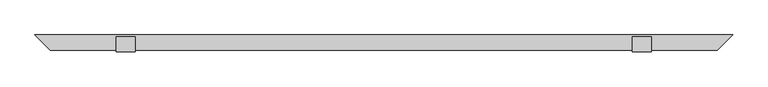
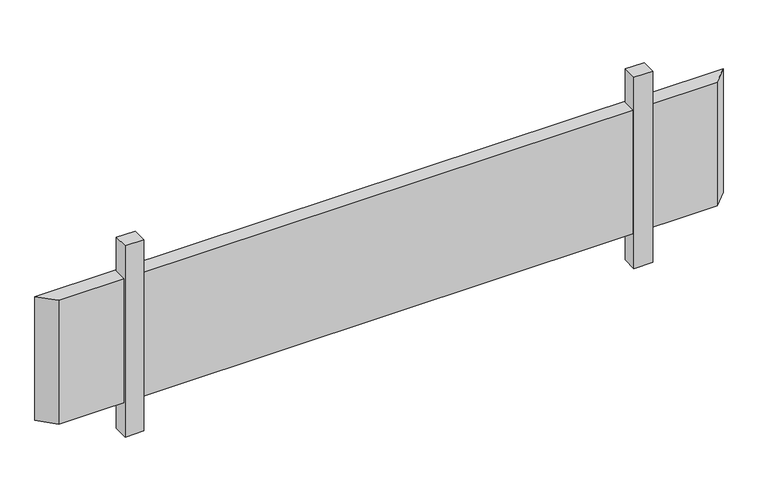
"""IFC4 building model written with IfcOpenShell, lengths in millimetres: proxy geometry, IMPRESS^TABLE 2_24 BASE METAL-TOP FRAME."""

from ifc_helpers import new_model, si_unit, frame, origin, place, context, project, spatial, polyline, outline, extrude, source, transform, mapped, element, save


def generic_models_ebd43074(model_context):
    return source(origin(), model_context, "Body", "SweptSolid", [
        extrude(outline(polyline([(273.05, 44.45), (336.55, 44.45), (336.55, -6.35), (273.05, -6.35), (273.05, 44.45)])), frame((0.0, 0.0, -565.15), z_axis=(0.0, 0.0, 1.0), x_axis=(1.0, 0.0, 0.0)), (0.0, 0.0, 1.0), 685.8),
        extrude(outline(polyline([(2000.25, 44.45), (2063.75, 44.45), (2063.75, -6.35), (2000.25, -6.35), (2000.25, 44.45)])), frame((0.0, 0.0, -565.15), z_axis=(0.0, 0.0, 1.0), x_axis=(1.0, 0.0, 0.0)), (0.0, 0.0, 1.0), 685.8),
        extrude(outline(polyline([(2286.0, 0.0), (50.8, 0.0), (0.0, 50.8), (2336.8, 50.8), (2286.0, 0.0)])), frame((0.0, 0.0, -444.5), z_axis=(0.0, 0.0, 1.0), x_axis=(1.0, 0.0, 0.0)), (0.0, 0.0, 1.0), 444.5),
    ])


if __name__ == "__main__":
    model = new_model("IFC4")
    model_context = context("Model", 3, world=origin())
    ifc_project = project(units=[si_unit("LENGTHUNIT", "METRE", prefix="MILLI")], contexts=[model_context])
    site = spatial("IfcSite", under=ifc_project)
    building = spatial("IfcBuilding", under=site)
    placement = place(None, origin())
    generic_models_shape = generic_models_ebd43074(model_context)
    element("IfcBuildingElementProxy", 1, Name="IMPRESS^TABLE 2_24 BASE METAL-TOP FRAME", ObjectType="IMPRESS^TABLE 2_24 BASE METAL-TOP FRAME", at=placement, inside=building, context=model_context, shape_type="MappedRepresentation", body=[
        mapped(generic_models_shape, transform((0.0, 0.0, 0.0), x_axis=(1.0, 0.0, 0.0), y_axis=(0.0, 1.0, 0.0), z_axis=(0.0, 0.0, 1.0))),
    ])
    save(model, "model.ifc")
